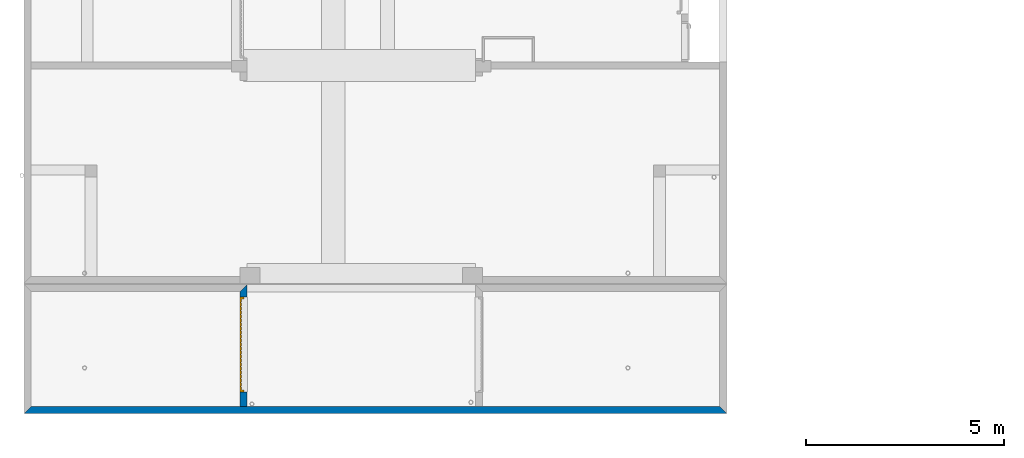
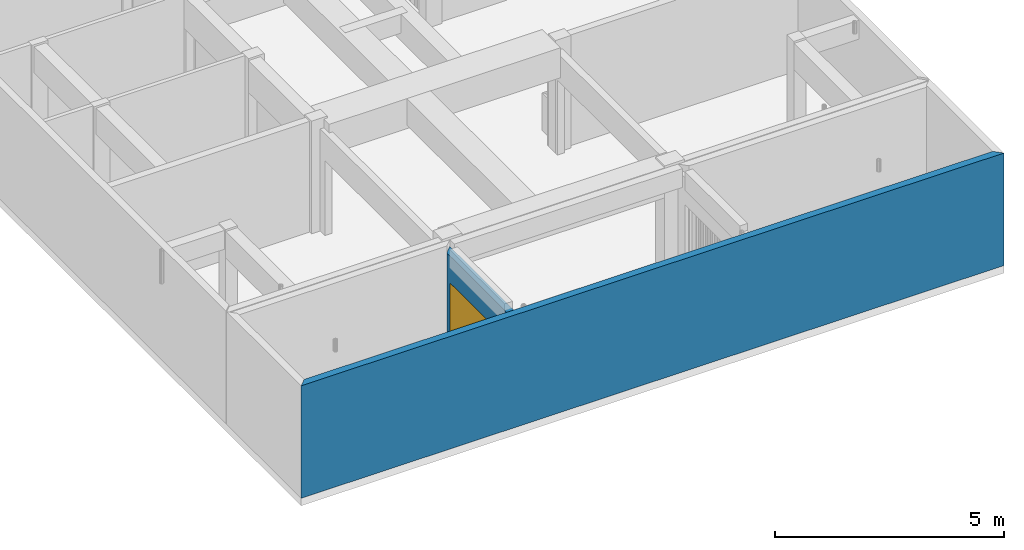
# One storey, part 3 of 41: 2 walls, 1 door, 1 opening.
"""IFC2X3 building model written with IfcOpenShell, lengths in millimetres."""

from ifc_helpers import new_model, entity, si_unit, converted_unit, derived_unit, money_unit, direction, frame, origin_with_axes, origin_2d_with_axis, place, context, subcontext, project, spatial, polyline, rectangle, outline, extrude, faceted_brep, source, transform, mapped, material, layer, layer_set, layer_usage, type_object, element, fill, save


model = new_model("IFC2X3")

# Units and contexts
model_context = context("Model", 3, precision=0.01, world=origin_with_axes(), true_north=direction((0.0, 1.0)))
body_context = subcontext(model_context, "Body", "Model", "MODEL_VIEW")
ifc_project = project(units=[si_unit("LENGTHUNIT", "METRE", prefix="MILLI"), si_unit("AREAUNIT", "SQUARE_METRE"), si_unit("VOLUMEUNIT", "CUBIC_METRE"), converted_unit("PLANEANGLEUNIT", "DEGREE", entity("IfcPlaneAngleMeasure", 0.0174532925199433), si_unit("PLANEANGLEUNIT", "RADIAN"), dimensions=[0, 0, 0, 0, 0, 0, 0]), money_unit("USD"), converted_unit("TIMEUNIT", "Year", entity("IfcTimeMeasure", 31557600.0), si_unit("TIMEUNIT", "SECOND"), dimensions=[0, 0, 1, 0, 0, 0, 0]), si_unit("MASSUNIT", "GRAM", prefix="KILO"), si_unit("THERMODYNAMICTEMPERATUREUNIT", "DEGREE_CELSIUS"), si_unit("LUMINOUSINTENSITYUNIT", "LUMEN"), si_unit("ENERGYUNIT", "JOULE", prefix="MEGA"), derived_unit("THERMALCONDUCTANCEUNIT", [(si_unit("POWERUNIT", "WATT"), 1), (si_unit("LENGTHUNIT", "METRE"), -1), (si_unit("THERMODYNAMICTEMPERATUREUNIT", "KELVIN"), -1)]), derived_unit("SPECIFICHEATCAPACITYUNIT", [(si_unit("ENERGYUNIT", "JOULE"), 1), (si_unit("MASSUNIT", "GRAM", prefix="KILO"), -1), (si_unit("THERMODYNAMICTEMPERATUREUNIT", "KELVIN"), -1)]), derived_unit("MASSDENSITYUNIT", [(si_unit("MASSUNIT", "GRAM", prefix="KILO"), 1), (si_unit("VOLUMEUNIT", "CUBIC_METRE"), -1)])], contexts=[model_context])

# Site, building, storey
site_placement = place(None, origin_with_axes())
site = spatial("IfcSite", under=ifc_project, at=site_placement, Name="Site", CompositionType="ELEMENT")
building_placement = place(site_placement, origin_with_axes())
building = spatial("IfcBuilding", under=site, at=building_placement, Name="Bâtiment", CompositionType="ELEMENT")
storey_placement = place(building_placement, origin_with_axes())
storey = spatial("IfcBuildingStorey", under=building, at=storey_placement, Name="sousol", CompositionType="ELEMENT", Elevation=0.0)

# Wall
ifc_material = material(Name="Parpaing 314940890")
ifc_layer = layer(ifc_material, 180.0, ventilated="UNKNOWN")
ifc_layer_set = layer_set([ifc_layer], Name="Beton  18 0170347028")
ifc_layer_usage_1 = layer_usage(ifc_layer_set, "AXIS2", "POSITIVE", 0.0)
wall_type = type_object("IfcWallType", Name="Beton  18 0170347028 180", PredefinedType="NOTDEFINED")
wall_1_placement = place(storey_placement, frame((2216634.233344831, -661098.3230769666, 0.0), z_axis=(0.0, 0.0, 1.0), x_axis=(0.9999999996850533, 2.509767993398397e-05, 0.0)))
element("IfcWallStandardCase", 1, at=wall_1_placement, inside=storey, type_object=wall_type, material=ifc_layer_usage_1, Name="Mur-133", context=body_context, shape_type="SweptSolid", body=[
    extrude(outline(polyline([(0.0, 0.0), (17722.40800401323, 0.0), (17542.41252153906, 179.9999999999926), (180.0045176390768, 179.9999999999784), (0.0, 0.0)])), origin_with_axes(), (0.0, 0.0, 1.0), 3000.0),
])

# Wall, opening, door
ifc_layer_usage_2 = layer_usage(ifc_layer_set, "AXIS2", "NEGATIVE", 0.0)
wall_2_placement = place(storey_placement, frame((2222264.233344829, -657838.3230769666, 0.0), z_axis=(0.0, 0.0, 1.0), x_axis=(0.0, -1.0, 0.0)))
wall_2 = element("IfcWallStandardCase", 2, at=wall_2_placement, inside=storey, type_object=wall_type, material=ifc_layer_usage_2, Name="Mur-133", context=body_context, shape_type="SweptSolid", body=[
    extrude(outline(polyline([(180.0000000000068, -179.99999999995), (3079.863217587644, -179.99999999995), (3079.858700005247, 0.0), (0.0, 0.0), (180.0000000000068, -179.99999999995)])), origin_with_axes(), (0.0, 0.0, 1.0), 2769.999999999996),
])
opening_placement = place(wall_2_placement, frame((1520.828657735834, 2.273736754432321e-10, 0.0), z_axis=(0.0, 0.0, 1.0), x_axis=(1.0, 0.0, 0.0)))
opening = element("IfcOpeningElement", 3, at=opening_placement, cuts=wall_2, Name="Por-296", context=body_context, shape_type="SweptSolid", body=[
    extrude(rectangle(XDim=2400.000000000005, YDim=2050.0, at=origin_2d_with_axis()), frame((0.0, -179.99999999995, 1025.0), z_axis=(0.0, 1.0, 0.0), x_axis=(1.0, 0.0, 0.0)), (0.0, 0.0, -1.0), 180.0),
    extrude(rectangle(XDim=2400.000000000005, YDim=2050.0, at=origin_2d_with_axis()), frame((0.0, -179.99999999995, 1025.0), z_axis=(0.0, -1.0, 0.0), x_axis=(1.0, 0.0, 0.0)), (0.0, 0.0, -1.0), 180.0),
])
door_style = type_object("IfcDoorStyle", Name="P_garage 1", ConstructionType="NOTDEFINED", OperationType="NOTDEFINED", ParameterTakesPrecedence=False, Sizeable=False)
shared_shape = source(origin_with_axes(), body_context, "Body", "Brep", [
    faceted_brep([(-1200.0, 0.0, 0.0), (-1150.0, 0.0, 0.0), (-1150.0, -100.0, 0.0), (-1200.0, -100.0, 0.0), (-1200.0, 0.0, 2050.0), (1200.0, 0.0, 2050.0), (1200.0, 0.0, 0.0), (1150.0, 0.0, 0.0), (1150.0, 0.0, 2000.0), (-1150.0, 0.0, 2000.0), (-1150.0, -100.0, 2000.0), (1150.0, -100.0, 2000.0), (1150.0, -100.0, 0.0), (1200.0, -100.0, 0.0), (1200.0, -100.0, 2050.0), (-1200.0, -100.0, 2050.0)], [[[0, 1, 2, 3]], [[0, 4, 5, 6, 7, 8, 9, 1]], [[1, 9, 10, 2]], [[3, 2, 10, 11, 12, 13, 14, 15]], [[4, 0, 3, 15]], [[5, 4, 15, 14]], [[6, 5, 14, 13]], [[7, 6, 13, 12]], [[8, 7, 12, 11]], [[9, 8, 11, 10]]]),
    faceted_brep([(-1069.130434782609, -40.0, 0.0), (-1069.130434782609, -26.66666666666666, 0.0), (-1069.130434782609, -26.66666666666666, 2000.0), (-1069.130434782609, -40.0, 2000.0), (-1150.0, -40.0, 0.0), (-1150.0, -26.66666666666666, 0.0), (-1150.0, -26.66666666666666, 2000.0), (-1150.0, -40.0, 2000.0)], [[[0, 1, 2, 3]], [[4, 5, 1, 0]], [[1, 5, 6, 2]], [[3, 2, 6, 7]], [[0, 3, 7, 4]], [[7, 6, 5, 4]]]),
    faceted_brep([(-968.2608695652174, -40.0, 0.0), (-968.2608695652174, -26.66666666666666, 0.0), (-968.2608695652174, -26.66666666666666, 2000.0), (-968.2608695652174, -40.0, 2000.0), (-1049.130434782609, -40.0, 0.0), (-1049.130434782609, -26.66666666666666, 0.0), (-1049.130434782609, -26.66666666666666, 2000.0), (-1049.130434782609, -40.0, 2000.0)], [[[0, 1, 2, 3]], [[4, 5, 1, 0]], [[1, 5, 6, 2]], [[3, 2, 6, 7]], [[0, 3, 7, 4]], [[7, 6, 5, 4]]]),
    faceted_brep([(-867.3913043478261, -40.0, 0.0), (-867.3913043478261, -26.66666666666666, 0.0), (-867.3913043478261, -26.66666666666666, 2000.0), (-867.3913043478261, -40.0, 2000.0), (-948.2608695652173, -40.0, 0.0), (-948.2608695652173, -26.66666666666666, 0.0), (-948.2608695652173, -26.66666666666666, 2000.0), (-948.2608695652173, -40.0, 2000.0)], [[[0, 1, 2, 3]], [[4, 5, 1, 0]], [[1, 5, 6, 2]], [[3, 2, 6, 7]], [[0, 3, 7, 4]], [[7, 6, 5, 4]]]),
    faceted_brep([(-766.5217391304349, -40.0, 0.0), (-766.5217391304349, -26.66666666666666, 0.0), (-766.5217391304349, -26.66666666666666, 2000.0), (-766.5217391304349, -40.0, 2000.0), (-847.391304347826, -40.0, 0.0), (-847.391304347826, -26.66666666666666, 0.0), (-847.391304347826, -26.66666666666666, 2000.0), (-847.391304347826, -40.0, 2000.0)], [[[0, 1, 2, 3]], [[4, 5, 1, 0]], [[1, 5, 6, 2]], [[3, 2, 6, 7]], [[0, 3, 7, 4]], [[7, 6, 5, 4]]]),
    faceted_brep([(-665.6521739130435, -40.0, 0.0), (-665.6521739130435, -26.66666666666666, 0.0), (-665.6521739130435, -26.66666666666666, 2000.0), (-665.6521739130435, -40.0, 2000.0), (-746.5217391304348, -40.0, 0.0), (-746.5217391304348, -26.66666666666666, 0.0), (-746.5217391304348, -26.66666666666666, 2000.0), (-746.5217391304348, -40.0, 2000.0)], [[[0, 1, 2, 3]], [[4, 5, 1, 0]], [[1, 5, 6, 2]], [[3, 2, 6, 7]], [[0, 3, 7, 4]], [[7, 6, 5, 4]]]),
    faceted_brep([(-564.7826086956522, -40.0, 0.0), (-564.7826086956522, -26.66666666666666, 0.0), (-564.7826086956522, -26.66666666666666, 2000.0), (-564.7826086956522, -40.0, 2000.0), (-645.6521739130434, -40.0, 0.0), (-645.6521739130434, -26.66666666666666, 0.0), (-645.6521739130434, -26.66666666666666, 2000.0), (-645.6521739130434, -40.0, 2000.0)], [[[0, 1, 2, 3]], [[4, 5, 1, 0]], [[1, 5, 6, 2]], [[3, 2, 6, 7]], [[0, 3, 7, 4]], [[7, 6, 5, 4]]]),
    faceted_brep([(-463.9130434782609, -40.0, 0.0), (-463.9130434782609, -26.66666666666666, 0.0), (-463.9130434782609, -26.66666666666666, 2000.0), (-463.9130434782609, -40.0, 2000.0), (-544.7826086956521, -40.0, 0.0), (-544.7826086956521, -26.66666666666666, 0.0), (-544.7826086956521, -26.66666666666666, 2000.0), (-544.7826086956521, -40.0, 2000.0)], [[[0, 1, 2, 3]], [[4, 5, 1, 0]], [[1, 5, 6, 2]], [[3, 2, 6, 7]], [[0, 3, 7, 4]], [[7, 6, 5, 4]]]),
    faceted_brep([(-363.0434782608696, -40.0, 0.0), (-363.0434782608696, -26.66666666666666, 0.0), (-363.0434782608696, -26.66666666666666, 2000.0), (-363.0434782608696, -40.0, 2000.0), (-443.9130434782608, -40.0, 0.0), (-443.9130434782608, -26.66666666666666, 0.0), (-443.9130434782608, -26.66666666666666, 2000.0), (-443.9130434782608, -40.0, 2000.0)], [[[0, 1, 2, 3]], [[4, 5, 1, 0]], [[1, 5, 6, 2]], [[3, 2, 6, 7]], [[0, 3, 7, 4]], [[7, 6, 5, 4]]]),
    faceted_brep([(-262.1739130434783, -40.0, 0.0), (-262.1739130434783, -26.66666666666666, 0.0), (-262.1739130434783, -26.66666666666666, 2000.0), (-262.1739130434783, -40.0, 2000.0), (-343.0434782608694, -40.0, 0.0), (-343.0434782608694, -26.66666666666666, 0.0), (-343.0434782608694, -26.66666666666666, 2000.0), (-343.0434782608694, -40.0, 2000.0)], [[[0, 1, 2, 3]], [[4, 5, 1, 0]], [[1, 5, 6, 2]], [[3, 2, 6, 7]], [[0, 3, 7, 4]], [[7, 6, 5, 4]]]),
    faceted_brep([(-161.3043478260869, -40.0, 0.0), (-161.3043478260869, -26.66666666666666, 0.0), (-161.3043478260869, -26.66666666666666, 2000.0), (-161.3043478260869, -40.0, 2000.0), (-242.1739130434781, -40.0, 0.0), (-242.1739130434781, -26.66666666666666, 0.0), (-242.1739130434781, -26.66666666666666, 2000.0), (-242.1739130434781, -40.0, 2000.0)], [[[0, 1, 2, 3]], [[4, 5, 1, 0]], [[1, 5, 6, 2]], [[3, 2, 6, 7]], [[0, 3, 7, 4]], [[7, 6, 5, 4]]]),
    faceted_brep([(-60.43478260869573, -40.0, 0.0), (-60.43478260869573, -26.66666666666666, 0.0), (-60.43478260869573, -26.66666666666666, 2000.0), (-60.43478260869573, -40.0, 2000.0), (-141.3043478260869, -40.0, 0.0), (-141.3043478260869, -26.66666666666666, 0.0), (-141.3043478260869, -26.66666666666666, 2000.0), (-141.3043478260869, -40.0, 2000.0)], [[[0, 1, 2, 3]], [[4, 5, 1, 0]], [[1, 5, 6, 2]], [[3, 2, 6, 7]], [[0, 3, 7, 4]], [[7, 6, 5, 4]]]),
    faceted_brep([(40.43478260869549, -40.0, 0.0), (40.43478260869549, -26.66666666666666, 0.0), (40.43478260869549, -26.66666666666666, 2000.0), (40.43478260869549, -40.0, 2000.0), (-40.43478260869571, -40.0, 0.0), (-40.43478260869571, -26.66666666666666, 0.0), (-40.43478260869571, -26.66666666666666, 2000.0), (-40.43478260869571, -40.0, 2000.0)], [[[0, 1, 2, 3]], [[4, 5, 1, 0]], [[1, 5, 6, 2]], [[3, 2, 6, 7]], [[0, 3, 7, 4]], [[7, 6, 5, 4]]]),
    faceted_brep([(141.3043478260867, -40.0, 0.0), (141.3043478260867, -26.66666666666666, 0.0), (141.3043478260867, -26.66666666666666, 2000.0), (141.3043478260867, -40.0, 2000.0), (60.4347826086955, -40.0, 0.0), (60.4347826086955, -26.66666666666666, 0.0), (60.4347826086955, -26.66666666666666, 2000.0), (60.4347826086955, -40.0, 2000.0)], [[[0, 1, 2, 3]], [[4, 5, 1, 0]], [[1, 5, 6, 2]], [[3, 2, 6, 7]], [[0, 3, 7, 4]], [[7, 6, 5, 4]]]),
    faceted_brep([(242.1739130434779, -40.0, 0.0), (242.1739130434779, -26.66666666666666, 0.0), (242.1739130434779, -26.66666666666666, 2000.0), (242.1739130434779, -40.0, 2000.0), (161.3043478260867, -40.0, 0.0), (161.3043478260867, -26.66666666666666, 0.0), (161.3043478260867, -26.66666666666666, 2000.0), (161.3043478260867, -40.0, 2000.0)], [[[0, 1, 2, 3]], [[4, 5, 1, 0]], [[1, 5, 6, 2]], [[3, 2, 6, 7]], [[0, 3, 7, 4]], [[7, 6, 5, 4]]]),
    faceted_brep([(343.0434782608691, -40.0, 0.0), (343.0434782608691, -26.66666666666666, 0.0), (343.0434782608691, -26.66666666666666, 2000.0), (343.0434782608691, -40.0, 2000.0), (262.1739130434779, -40.0, 0.0), (262.1739130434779, -26.66666666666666, 0.0), (262.1739130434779, -26.66666666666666, 2000.0), (262.1739130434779, -40.0, 2000.0)], [[[0, 1, 2, 3]], [[4, 5, 1, 0]], [[1, 5, 6, 2]], [[3, 2, 6, 7]], [[0, 3, 7, 4]], [[7, 6, 5, 4]]]),
    faceted_brep([(443.9130434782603, -40.0, 0.0), (443.9130434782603, -26.66666666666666, 0.0), (443.9130434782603, -26.66666666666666, 2000.0), (443.9130434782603, -40.0, 2000.0), (363.0434782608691, -40.0, 0.0), (363.0434782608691, -26.66666666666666, 0.0), (363.0434782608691, -26.66666666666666, 2000.0), (363.0434782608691, -40.0, 2000.0)], [[[0, 1, 2, 3]], [[4, 5, 1, 0]], [[1, 5, 6, 2]], [[3, 2, 6, 7]], [[0, 3, 7, 4]], [[7, 6, 5, 4]]]),
    faceted_brep([(544.7826086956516, -40.0, 0.0), (544.7826086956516, -26.66666666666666, 0.0), (544.7826086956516, -26.66666666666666, 2000.0), (544.7826086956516, -40.0, 2000.0), (463.9130434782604, -40.0, 0.0), (463.9130434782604, -26.66666666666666, 0.0), (463.9130434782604, -26.66666666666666, 2000.0), (463.9130434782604, -40.0, 2000.0)], [[[0, 1, 2, 3]], [[4, 5, 1, 0]], [[1, 5, 6, 2]], [[3, 2, 6, 7]], [[0, 3, 7, 4]], [[7, 6, 5, 4]]]),
    faceted_brep([(645.6521739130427, -40.0, 0.0), (645.6521739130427, -26.66666666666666, 0.0), (645.6521739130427, -26.66666666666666, 2000.0), (645.6521739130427, -40.0, 2000.0), (564.7826086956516, -40.0, 0.0), (564.7826086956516, -26.66666666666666, 0.0), (564.7826086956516, -26.66666666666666, 2000.0), (564.7826086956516, -40.0, 2000.0)], [[[0, 1, 2, 3]], [[4, 5, 1, 0]], [[1, 5, 6, 2]], [[3, 2, 6, 7]], [[0, 3, 7, 4]], [[7, 6, 5, 4]]]),
    faceted_brep([(746.521739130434, -40.0, 0.0), (746.521739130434, -26.66666666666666, 0.0), (746.521739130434, -26.66666666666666, 2000.0), (746.521739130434, -40.0, 2000.0), (665.6521739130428, -40.0, 0.0), (665.6521739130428, -26.66666666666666, 0.0), (665.6521739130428, -26.66666666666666, 2000.0), (665.6521739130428, -40.0, 2000.0)], [[[0, 1, 2, 3]], [[4, 5, 1, 0]], [[1, 5, 6, 2]], [[3, 2, 6, 7]], [[0, 3, 7, 4]], [[7, 6, 5, 4]]]),
    faceted_brep([(847.3913043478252, -40.0, 0.0), (847.3913043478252, -26.66666666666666, 0.0), (847.3913043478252, -26.66666666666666, 2000.0), (847.3913043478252, -40.0, 2000.0), (766.521739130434, -40.0, 0.0), (766.521739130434, -26.66666666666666, 0.0), (766.521739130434, -26.66666666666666, 2000.0), (766.521739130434, -40.0, 2000.0)], [[[0, 1, 2, 3]], [[4, 5, 1, 0]], [[1, 5, 6, 2]], [[3, 2, 6, 7]], [[0, 3, 7, 4]], [[7, 6, 5, 4]]]),
    faceted_brep([(948.2608695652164, -40.0, 0.0), (948.2608695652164, -26.66666666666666, 0.0), (948.2608695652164, -26.66666666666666, 2000.0), (948.2608695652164, -40.0, 2000.0), (867.3913043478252, -40.0, 0.0), (867.3913043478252, -26.66666666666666, 0.0), (867.3913043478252, -26.66666666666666, 2000.0), (867.3913043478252, -40.0, 2000.0)], [[[0, 1, 2, 3]], [[4, 5, 1, 0]], [[1, 5, 6, 2]], [[3, 2, 6, 7]], [[0, 3, 7, 4]], [[7, 6, 5, 4]]]),
    faceted_brep([(1049.130434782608, -40.0, 0.0), (1049.130434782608, -26.66666666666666, 0.0), (1049.130434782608, -26.66666666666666, 2000.0), (1049.130434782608, -40.0, 2000.0), (968.2608695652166, -40.0, 0.0), (968.2608695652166, -26.66666666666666, 0.0), (968.2608695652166, -26.66666666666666, 2000.0), (968.2608695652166, -40.0, 2000.0)], [[[0, 1, 2, 3]], [[4, 5, 1, 0]], [[1, 5, 6, 2]], [[3, 2, 6, 7]], [[0, 3, 7, 4]], [[7, 6, 5, 4]]]),
    faceted_brep([(1149.999999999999, -40.0, 0.0), (1149.999999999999, -26.66666666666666, 0.0), (1149.999999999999, -26.66666666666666, 2000.0), (1149.999999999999, -40.0, 2000.0), (1069.130434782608, -40.0, 0.0), (1069.130434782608, -26.66666666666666, 0.0), (1069.130434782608, -26.66666666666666, 2000.0), (1069.130434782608, -40.0, 2000.0)], [[[0, 1, 2, 3]], [[4, 5, 1, 0]], [[1, 5, 6, 2]], [[3, 2, 6, 7]], [[0, 3, 7, 4]], [[7, 6, 5, 4]]]),
    faceted_brep([(-1150.0, -26.66666666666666, 0.0), (-1150.0, 0.0, 0.0), (1150.0, 0.0, 0.0), (1150.0, -26.66666666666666, 0.0), (-1150.0, -26.66666666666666, 2000.0), (-1150.0, 0.0, 2000.0), (1150.0, 0.0, 2000.0), (1150.0, -26.66666666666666, 2000.0)], [[[0, 1, 2, 3]], [[4, 5, 1, 0]], [[1, 5, 6, 2]], [[3, 2, 6, 7]], [[0, 3, 7, 4]], [[7, 6, 5, 4]]]),
])
door_placement = place(opening_placement, frame((1200.000000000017, 2.273736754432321e-10, 0.0), z_axis=(0.0, 0.0, 1.0), x_axis=(-1.0, 0.0, 0.0)))
door = element("IfcDoor", 4, at=door_placement, inside=storey, type_object=door_style, Name="Por-296", OverallHeight=2050.0, OverallWidth=2400.0, context=body_context, shape_type="MappedRepresentation", body=[
    mapped(shared_shape, transform((1200.000000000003, 179.99999999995, 0.0))),
])
fill(opening, door)

save(model, "model.ifc")
